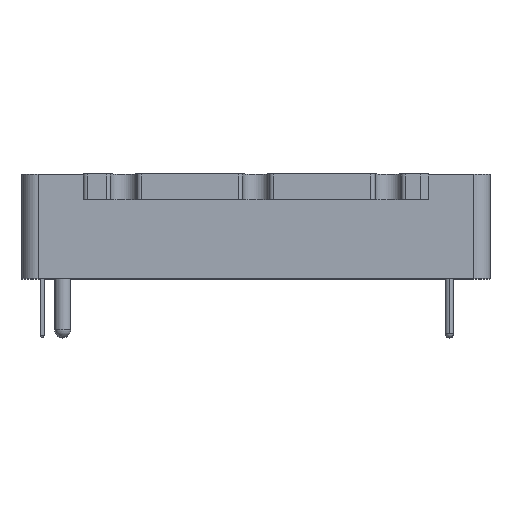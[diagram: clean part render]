
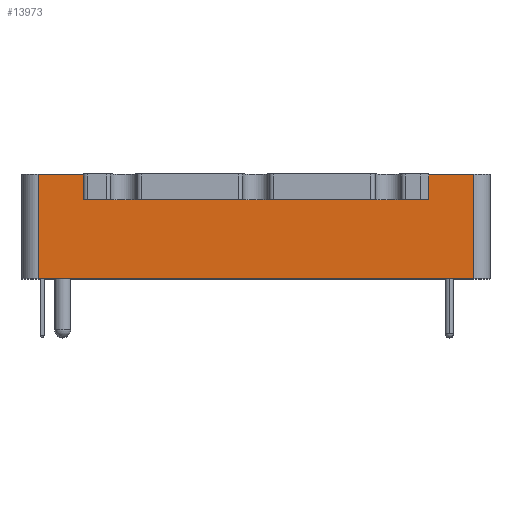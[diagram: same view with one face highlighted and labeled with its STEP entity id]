
A CAD part, top view. The second image highlights one B-rep face of the part: STEP entity #13973.
In plain terms, the highlighted planar face has unit normal (0, 0, 1).
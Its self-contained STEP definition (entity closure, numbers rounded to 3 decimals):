
#70 = DIRECTION ( 'NONE',  ( 1., 0., 0. ) ) ;
#132 = EDGE_CURVE ( 'NONE', #24297, #19897, #11389, .T. ) ;
#196 = ORIENTED_EDGE ( 'NONE', *, *, #15037, .F. ) ;
#1065 = CARTESIAN_POINT ( 'NONE',  ( 27.2, 13., 30.5 ) ) ;
#1132 = CARTESIAN_POINT ( 'NONE',  ( -27.2, 12., 30.5 ) ) ;
#1290 = CARTESIAN_POINT ( 'NONE',  ( 21.58, 12., 30.5 ) ) ;
#1524 = CARTESIAN_POINT ( 'NONE',  ( 21.58, 13., 30.5 ) ) ;
#1583 = VECTOR ( 'NONE', #24222, 1000. ) ;
#1803 = CARTESIAN_POINT ( 'NONE',  ( -27.2, 0., 30.5 ) ) ;
#2656 = DIRECTION ( 'NONE',  ( 1., 0., 0. ) ) ;
#3498 = VERTEX_POINT ( 'NONE', #1065 ) ;
#4074 = AXIS2_PLACEMENT_3D ( 'NONE', #25348, #18602, #24027 ) ;
#4254 = VERTEX_POINT ( 'NONE', #6672 ) ;
#4443 = VERTEX_POINT ( 'NONE', #7682 ) ;
#4890 = VECTOR ( 'NONE', #2656, 1000. ) ;
#5383 = LINE ( 'NONE', #22937, #14276 ) ;
#5482 = EDGE_LOOP ( 'NONE', ( #24904, #196, #20799, #11930, #11324, #10178, #24508, #25082, #24565, #14733 ) ) ;
#5927 = CARTESIAN_POINT ( 'NONE',  ( 21.555, 12., 30.5 ) ) ;
#6101 = VECTOR ( 'NONE', #7441, 1000. ) ;
#6114 = VERTEX_POINT ( 'NONE', #5927 ) ;
#6171 = CARTESIAN_POINT ( 'NONE',  ( -21.58, 12., 30.5 ) ) ;
#6352 = EDGE_CURVE ( 'NONE', #4254, #6114, #7306, .T. ) ;
#6576 = LINE ( 'NONE', #16793, #1583 ) ;
#6672 = CARTESIAN_POINT ( 'NONE',  ( -21.555, 12., 30.5 ) ) ;
#7306 = LINE ( 'NONE', #1132, #10719 ) ;
#7441 = DIRECTION ( 'NONE',  ( 0., -1., 0. ) ) ;
#7682 = CARTESIAN_POINT ( 'NONE',  ( 21.58, 12., 30.5 ) ) ;
#7803 = EDGE_CURVE ( 'NONE', #6114, #4443, #23923, .T. ) ;
#8353 = CARTESIAN_POINT ( 'NONE',  ( 0., 12., 30.5 ) ) ;
#9349 = DIRECTION ( 'NONE',  ( 0., -1., 0. ) ) ;
#9476 = CARTESIAN_POINT ( 'NONE',  ( -27.2, 0., 30.5 ) ) ;
#9528 = EDGE_CURVE ( 'NONE', #10043, #4254, #14477, .T. ) ;
#9535 = CARTESIAN_POINT ( 'NONE',  ( -21.58, 13., 30.5 ) ) ;
#9710 = PLANE ( 'NONE',  #4074 ) ;
#10043 = VERTEX_POINT ( 'NONE', #18045 ) ;
#10178 = ORIENTED_EDGE ( 'NONE', *, *, #6352, .F. ) ;
#10719 = VECTOR ( 'NONE', #18560, 1000. ) ;
#11324 = ORIENTED_EDGE ( 'NONE', *, *, #7803, .F. ) ;
#11389 = LINE ( 'NONE', #9476, #13619 ) ;
#11650 = FACE_OUTER_BOUND ( 'NONE', #5482, .T. ) ;
#11930 = ORIENTED_EDGE ( 'NONE', *, *, #23358, .F. ) ;
#12284 = CARTESIAN_POINT ( 'NONE',  ( 0., 12., 30.5 ) ) ;
#12691 = LINE ( 'NONE', #1290, #14242 ) ;
#12794 = VERTEX_POINT ( 'NONE', #19416 ) ;
#12817 = DIRECTION ( 'NONE',  ( 0., 1., 0. ) ) ;
#13619 = VECTOR ( 'NONE', #17281, 1000. ) ;
#13973 = ADVANCED_FACE ( 'NONE', ( #11650 ), #9710, .F. ) ;
#14242 = VECTOR ( 'NONE', #12817, 1000. ) ;
#14276 = VECTOR ( 'NONE', #9349, 1000. ) ;
#14477 = LINE ( 'NONE', #8353, #25327 ) ;
#14733 = ORIENTED_EDGE ( 'NONE', *, *, #19027, .T. ) ;
#15037 = EDGE_CURVE ( 'NONE', #3498, #19897, #21129, .T. ) ;
#15699 = CARTESIAN_POINT ( 'NONE',  ( -27.2, 13., 30.5 ) ) ;
#15775 = EDGE_CURVE ( 'NONE', #10043, #25047, #19127, .T. ) ;
#16793 = CARTESIAN_POINT ( 'NONE',  ( -27.2, 13., 30.5 ) ) ;
#17281 = DIRECTION ( 'NONE',  ( 1., 0., 0. ) ) ;
#18045 = CARTESIAN_POINT ( 'NONE',  ( -21.58, 12., 30.5 ) ) ;
#18334 = VECTOR ( 'NONE', #70, 1000. ) ;
#18374 = VECTOR ( 'NONE', #19863, 1000. ) ;
#18447 = DIRECTION ( 'NONE',  ( 1., 0., 0. ) ) ;
#18560 = DIRECTION ( 'NONE',  ( 1., 0., 0. ) ) ;
#18602 = DIRECTION ( 'NONE',  ( 0., 0., -1. ) ) ;
#19027 = EDGE_CURVE ( 'NONE', #12794, #24297, #5383, .T. ) ;
#19127 = LINE ( 'NONE', #6171, #18374 ) ;
#19416 = CARTESIAN_POINT ( 'NONE',  ( -27.2, 13., 30.5 ) ) ;
#19863 = DIRECTION ( 'NONE',  ( 0., 1., 0. ) ) ;
#19897 = VERTEX_POINT ( 'NONE', #22366 ) ;
#20799 = ORIENTED_EDGE ( 'NONE', *, *, #25242, .F. ) ;
#21129 = LINE ( 'NONE', #24969, #6101 ) ;
#21147 = VERTEX_POINT ( 'NONE', #1524 ) ;
#22366 = CARTESIAN_POINT ( 'NONE',  ( 27.2, 0., 30.5 ) ) ;
#22937 = CARTESIAN_POINT ( 'NONE',  ( -27.2, 13., 30.5 ) ) ;
#23358 = EDGE_CURVE ( 'NONE', #4443, #21147, #12691, .T. ) ;
#23563 = EDGE_CURVE ( 'NONE', #12794, #25047, #23761, .T. ) ;
#23761 = LINE ( 'NONE', #15699, #18334 ) ;
#23923 = LINE ( 'NONE', #12284, #4890 ) ;
#24027 = DIRECTION ( 'NONE',  ( -1., 0., 0. ) ) ;
#24222 = DIRECTION ( 'NONE',  ( 1., 0., 0. ) ) ;
#24297 = VERTEX_POINT ( 'NONE', #1803 ) ;
#24508 = ORIENTED_EDGE ( 'NONE', *, *, #9528, .F. ) ;
#24565 = ORIENTED_EDGE ( 'NONE', *, *, #23563, .F. ) ;
#24904 = ORIENTED_EDGE ( 'NONE', *, *, #132, .T. ) ;
#24969 = CARTESIAN_POINT ( 'NONE',  ( 27.2, 13., 30.5 ) ) ;
#25047 = VERTEX_POINT ( 'NONE', #9535 ) ;
#25082 = ORIENTED_EDGE ( 'NONE', *, *, #15775, .T. ) ;
#25242 = EDGE_CURVE ( 'NONE', #21147, #3498, #6576, .T. ) ;
#25327 = VECTOR ( 'NONE', #18447, 1000. ) ;
#25348 = CARTESIAN_POINT ( 'NONE',  ( -27.2, 13., 30.5 ) ) ;
